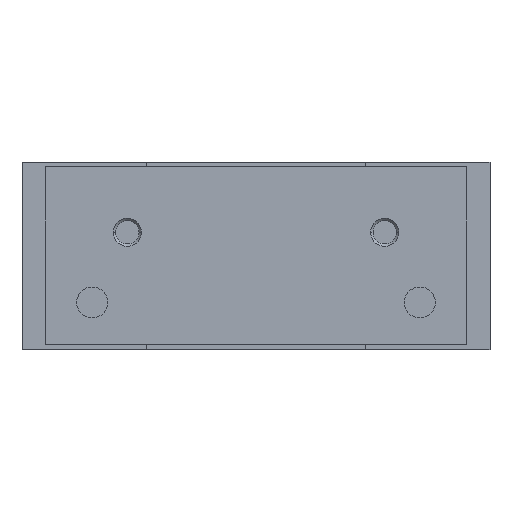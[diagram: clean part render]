
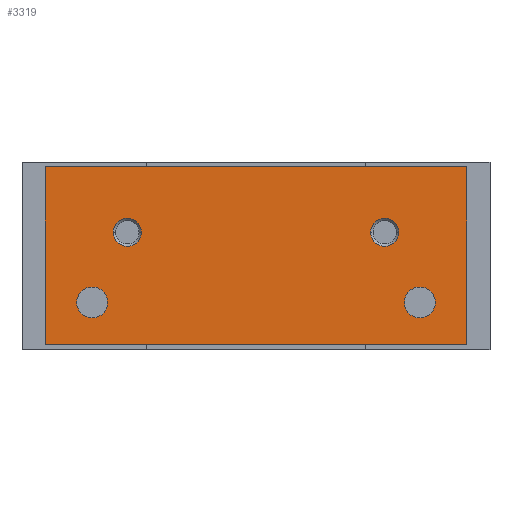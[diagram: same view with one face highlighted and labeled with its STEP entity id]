
A CAD part, top view. The second image highlights one B-rep face of the part: STEP entity #3319.
In plain terms, the highlighted planar face has unit normal (0, 0, 1).
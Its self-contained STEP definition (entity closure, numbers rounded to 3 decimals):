
#2237=CARTESIAN_POINT('',(-35.,-15.,0.));
#2238=DIRECTION('',(0.,0.,-1.));
#2239=DIRECTION('',(1.,0.,0.));
#2240=AXIS2_PLACEMENT_3D('',#2237,#2238,#2239);
#2245=CARTESIAN_POINT('',(-35.,-15.,0.));
#2246=DIRECTION('',(0.,0.,-1.));
#2247=DIRECTION('',(-1.,0.,0.));
#2248=AXIS2_PLACEMENT_3D('',#2245,#2246,#2247);
#2253=CARTESIAN_POINT('',(35.,-15.,0.));
#2254=DIRECTION('',(0.,0.,-1.));
#2255=DIRECTION('',(1.,0.,0.));
#2256=AXIS2_PLACEMENT_3D('',#2253,#2254,#2255);
#2261=CARTESIAN_POINT('',(35.,-15.,0.));
#2262=DIRECTION('',(0.,0.,-1.));
#2263=DIRECTION('',(-1.,0.,0.));
#2264=AXIS2_PLACEMENT_3D('',#2261,#2262,#2263);
#2269=DIRECTION('',(-1.,0.,0.));
#2270=VECTOR('',#2269,90.);
#2271=CARTESIAN_POINT('',(45.,14.,0.));
#2272=LINE('',#2271,#2270);
#2276=DIRECTION('',(0.,1.,0.));
#2277=VECTOR('',#2276,38.);
#2278=CARTESIAN_POINT('',(45.,-24.,0.));
#2279=LINE('',#2278,#2277);
#2283=DIRECTION('',(1.,0.,0.));
#2284=VECTOR('',#2283,90.);
#2285=CARTESIAN_POINT('',(-45.,-24.,0.));
#2286=LINE('',#2285,#2284);
#2290=DIRECTION('',(0.,-1.,0.));
#2291=VECTOR('',#2290,38.);
#2292=CARTESIAN_POINT('',(-45.,14.,0.));
#2293=LINE('',#2292,#2291);
#2297=CARTESIAN_POINT('',(-27.5,0.,0.));
#2298=DIRECTION('',(0.,0.,-1.));
#2299=DIRECTION('',(-1.,0.,0.));
#2300=AXIS2_PLACEMENT_3D('',#2297,#2298,#2299);
#2305=CARTESIAN_POINT('',(-27.5,0.,0.));
#2306=DIRECTION('',(0.,0.,-1.));
#2307=DIRECTION('',(1.,0.,0.));
#2308=AXIS2_PLACEMENT_3D('',#2305,#2306,#2307);
#2313=CARTESIAN_POINT('',(27.5,0.,0.));
#2314=DIRECTION('',(0.,0.,-1.));
#2315=DIRECTION('',(-1.,0.,0.));
#2316=AXIS2_PLACEMENT_3D('',#2313,#2314,#2315);
#2321=CARTESIAN_POINT('',(27.5,0.,0.));
#2322=DIRECTION('',(0.,0.,-1.));
#2323=DIRECTION('',(1.,0.,0.));
#2324=AXIS2_PLACEMENT_3D('',#2321,#2322,#2323);
#3132=CARTESIAN_POINT('',(-31.7,-15.,0.));
#3133=CARTESIAN_POINT('',(-38.3,-15.,0.));
#3134=VERTEX_POINT('',#3132);
#3135=VERTEX_POINT('',#3133);
#3136=CARTESIAN_POINT('',(38.3,-15.,0.));
#3137=CARTESIAN_POINT('',(31.7,-15.,0.));
#3138=VERTEX_POINT('',#3136);
#3139=VERTEX_POINT('',#3137);
#3140=CARTESIAN_POINT('',(45.,14.,0.));
#3141=CARTESIAN_POINT('',(-45.,14.,0.));
#3142=VERTEX_POINT('',#3140);
#3143=VERTEX_POINT('',#3141);
#3144=CARTESIAN_POINT('',(-45.,-24.,0.));
#3145=VERTEX_POINT('',#3144);
#3146=CARTESIAN_POINT('',(45.,-24.,0.));
#3147=VERTEX_POINT('',#3146);
#3200=CARTESIAN_POINT('',(-30.5,0.,0.));
#3201=CARTESIAN_POINT('',(-24.5,0.,0.));
#3202=VERTEX_POINT('',#3200);
#3203=VERTEX_POINT('',#3201);
#3208=CARTESIAN_POINT('',(24.5,0.,0.));
#3209=CARTESIAN_POINT('',(30.5,0.,0.));
#3210=VERTEX_POINT('',#3208);
#3211=VERTEX_POINT('',#3209);
#3280=CARTESIAN_POINT('',(0.,0.,0.));
#3281=DIRECTION('',(0.,0.,1.));
#3282=DIRECTION('',(1.,0.,0.));
#3283=AXIS2_PLACEMENT_3D('',#3280,#3281,#3282);
#3284=PLANE('',#3283);
#3286=ORIENTED_EDGE('',*,*,#3285,.F.);
#3288=ORIENTED_EDGE('',*,*,#3287,.F.);
#3290=ORIENTED_EDGE('',*,*,#3289,.F.);
#3292=ORIENTED_EDGE('',*,*,#3291,.F.);
#3293=EDGE_LOOP('',(#3286,#3288,#3290,#3292));
#3294=FACE_OUTER_BOUND('',#3293,.F.);
#3296=ORIENTED_EDGE('',*,*,#3295,.F.);
#3298=ORIENTED_EDGE('',*,*,#3297,.F.);
#3299=EDGE_LOOP('',(#3296,#3298));
#3300=FACE_BOUND('',#3299,.F.);
#3302=ORIENTED_EDGE('',*,*,#3301,.F.);
#3304=ORIENTED_EDGE('',*,*,#3303,.F.);
#3305=EDGE_LOOP('',(#3302,#3304));
#3306=FACE_BOUND('',#3305,.F.);
#3308=ORIENTED_EDGE('',*,*,#3307,.F.);
#3310=ORIENTED_EDGE('',*,*,#3309,.F.);
#3311=EDGE_LOOP('',(#3308,#3310));
#3312=FACE_BOUND('',#3311,.F.);
#3314=ORIENTED_EDGE('',*,*,#3313,.F.);
#3316=ORIENTED_EDGE('',*,*,#3315,.F.);
#3317=EDGE_LOOP('',(#3314,#3316));
#3318=FACE_BOUND('',#3317,.F.);
#3319=ADVANCED_FACE('',(#3294,#3300,#3306,#3312,#3318),#3284,.T.);
#2241=CIRCLE('',#2240,3.3);
#2249=CIRCLE('',#2248,3.3);
#2257=CIRCLE('',#2256,3.3);
#2265=CIRCLE('',#2264,3.3);
#2301=CIRCLE('',#2300,3.);
#2309=CIRCLE('',#2308,3.);
#2317=CIRCLE('',#2316,3.);
#2325=CIRCLE('',#2324,3.);
#3285=EDGE_CURVE('',#3142,#3143,#2272,.T.);
#3287=EDGE_CURVE('',#3147,#3142,#2279,.T.);
#3289=EDGE_CURVE('',#3145,#3147,#2286,.T.);
#3291=EDGE_CURVE('',#3143,#3145,#2293,.T.);
#3295=EDGE_CURVE('',#3138,#3139,#2257,.T.);
#3297=EDGE_CURVE('',#3139,#3138,#2265,.T.);
#3301=EDGE_CURVE('',#3134,#3135,#2241,.T.);
#3303=EDGE_CURVE('',#3135,#3134,#2249,.T.);
#3307=EDGE_CURVE('',#3202,#3203,#2301,.T.);
#3309=EDGE_CURVE('',#3203,#3202,#2309,.T.);
#3313=EDGE_CURVE('',#3210,#3211,#2317,.T.);
#3315=EDGE_CURVE('',#3211,#3210,#2325,.T.);
